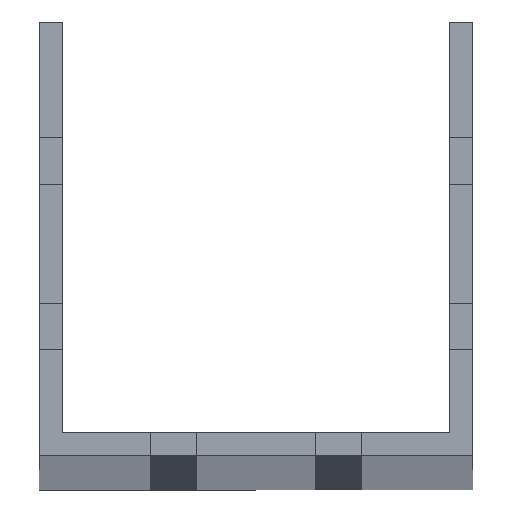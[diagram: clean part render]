
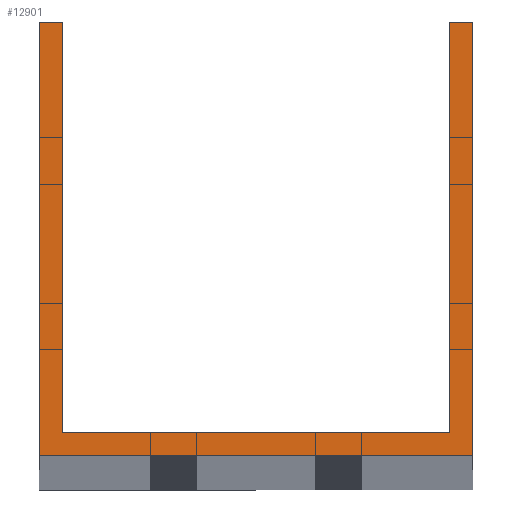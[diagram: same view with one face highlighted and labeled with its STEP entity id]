
A CAD part, top view. The second image highlights one B-rep face of the part: STEP entity #12901.
In plain terms, the highlighted planar face has unit normal (0, 0, 1).
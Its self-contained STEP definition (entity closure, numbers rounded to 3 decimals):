
#1785 = LINE ( 'NONE', #38183, #9822 ) ;
#1990 = VECTOR ( 'NONE', #22630, 1000. ) ;
#3384 = LINE ( 'NONE', #6971, #51363 ) ;
#3704 = ORIENTED_EDGE ( 'NONE', *, *, #37410, .T. ) ;
#3927 = DIRECTION ( 'NONE',  ( 0., 1., 0. ) ) ;
#5019 = EDGE_CURVE ( 'NONE', #41490, #35775, #32015, .T. ) ;
#5156 = CARTESIAN_POINT ( 'NONE',  ( 32.75, 65.5, 1500. ) ) ;
#5710 = EDGE_CURVE ( 'NONE', #17219, #8397, #37515, .T. ) ;
#6748 = LINE ( 'NONE', #23761, #36822 ) ;
#6749 = CARTESIAN_POINT ( 'NONE',  ( 0., 0., 1500. ) ) ;
#6845 = DIRECTION ( 'NONE',  ( -1., 0., 0. ) ) ;
#6971 = CARTESIAN_POINT ( 'NONE',  ( -32.75, 65.5, 1500. ) ) ;
#8393 = LINE ( 'NONE', #26587, #27961 ) ;
#8397 = VERTEX_POINT ( 'NONE', #14524 ) ;
#9198 = CARTESIAN_POINT ( 'NONE',  ( -32.75, 3.5, 1500. ) ) ;
#9822 = VECTOR ( 'NONE', #6845, 1000. ) ;
#10064 = ORIENTED_EDGE ( 'NONE', *, *, #5710, .F. ) ;
#10197 = ORIENTED_EDGE ( 'NONE', *, *, #5019, .T. ) ;
#10524 = CARTESIAN_POINT ( 'NONE',  ( 29.25, 65.5, 1500. ) ) ;
#12901 = ADVANCED_FACE ( 'NONE', ( #56564 ), #34181, .T. ) ;
#14524 = CARTESIAN_POINT ( 'NONE',  ( 29.25, 3.5, 1500. ) ) ;
#14809 = DIRECTION ( 'NONE',  ( 1., 0., 0. ) ) ;
#17004 = VERTEX_POINT ( 'NONE', #32683 ) ;
#17219 = VERTEX_POINT ( 'NONE', #21613 ) ;
#19775 = EDGE_CURVE ( 'NONE', #35775, #32117, #41152, .T. ) ;
#19779 = VERTEX_POINT ( 'NONE', #21857 ) ;
#20452 = DIRECTION ( 'NONE',  ( 1., 0., 0. ) ) ;
#21613 = CARTESIAN_POINT ( 'NONE',  ( -29.25, 3.5, 1500. ) ) ;
#21857 = CARTESIAN_POINT ( 'NONE',  ( -32.75, 0., 1500. ) ) ;
#22630 = DIRECTION ( 'NONE',  ( 1., 0., 0. ) ) ;
#22967 = EDGE_CURVE ( 'NONE', #19779, #41490, #6748, .T. ) ;
#23761 = CARTESIAN_POINT ( 'NONE',  ( -32.75, 0., 1500. ) ) ;
#24527 = ORIENTED_EDGE ( 'NONE', *, *, #22967, .T. ) ;
#24938 = DIRECTION ( 'NONE',  ( 0., 0., 1. ) ) ;
#25460 = CARTESIAN_POINT ( 'NONE',  ( -32.75, 65.5, 1500. ) ) ;
#26587 = CARTESIAN_POINT ( 'NONE',  ( 29.25, 65.5, 1500. ) ) ;
#27522 = CARTESIAN_POINT ( 'NONE',  ( 32.75, 0., 1500. ) ) ;
#27961 = VECTOR ( 'NONE', #3927, 1000. ) ;
#31597 = ORIENTED_EDGE ( 'NONE', *, *, #32439, .F. ) ;
#32015 = LINE ( 'NONE', #5156, #47678 ) ;
#32117 = VERTEX_POINT ( 'NONE', #10524 ) ;
#32157 = VECTOR ( 'NONE', #36783, 1000. ) ;
#32202 = CARTESIAN_POINT ( 'NONE',  ( -32.75, 65.5, 1500. ) ) ;
#32439 = EDGE_CURVE ( 'NONE', #8397, #32117, #8393, .T. ) ;
#32601 = EDGE_CURVE ( 'NONE', #17004, #36192, #1785, .T. ) ;
#32683 = CARTESIAN_POINT ( 'NONE',  ( -29.25, 65.5, 1500. ) ) ;
#33227 = EDGE_CURVE ( 'NONE', #17004, #17219, #40970, .T. ) ;
#33864 = ORIENTED_EDGE ( 'NONE', *, *, #19775, .T. ) ;
#34181 = PLANE ( 'NONE',  #47502 ) ;
#35775 = VERTEX_POINT ( 'NONE', #47632 ) ;
#36192 = VERTEX_POINT ( 'NONE', #25460 ) ;
#36486 = CARTESIAN_POINT ( 'NONE',  ( -29.25, 65.5, 1500. ) ) ;
#36783 = DIRECTION ( 'NONE',  ( 0., -1., 0. ) ) ;
#36822 = VECTOR ( 'NONE', #14809, 1000. ) ;
#37410 = EDGE_CURVE ( 'NONE', #36192, #19779, #3384, .T. ) ;
#37515 = LINE ( 'NONE', #9198, #1990 ) ;
#38183 = CARTESIAN_POINT ( 'NONE',  ( -32.75, 65.5, 1500. ) ) ;
#39782 = DIRECTION ( 'NONE',  ( 0., -1., 0. ) ) ;
#40970 = LINE ( 'NONE', #36486, #32157 ) ;
#41152 = LINE ( 'NONE', #32202, #57560 ) ;
#41490 = VERTEX_POINT ( 'NONE', #27522 ) ;
#44426 = EDGE_LOOP ( 'NONE', ( #58016, #58699, #3704, #24527, #10197, #33864, #31597, #10064 ) ) ;
#47502 = AXIS2_PLACEMENT_3D ( 'NONE', #6749, #24938, #20452 ) ;
#47632 = CARTESIAN_POINT ( 'NONE',  ( 32.75, 65.5, 1500. ) ) ;
#47678 = VECTOR ( 'NONE', #55571, 1000. ) ;
#48998 = DIRECTION ( 'NONE',  ( -1., 0., 0. ) ) ;
#51363 = VECTOR ( 'NONE', #39782, 1000. ) ;
#55571 = DIRECTION ( 'NONE',  ( 0., 1., 0. ) ) ;
#56564 = FACE_OUTER_BOUND ( 'NONE', #44426, .T. ) ;
#57560 = VECTOR ( 'NONE', #48998, 1000. ) ;
#58016 = ORIENTED_EDGE ( 'NONE', *, *, #33227, .F. ) ;
#58699 = ORIENTED_EDGE ( 'NONE', *, *, #32601, .T. ) ;
